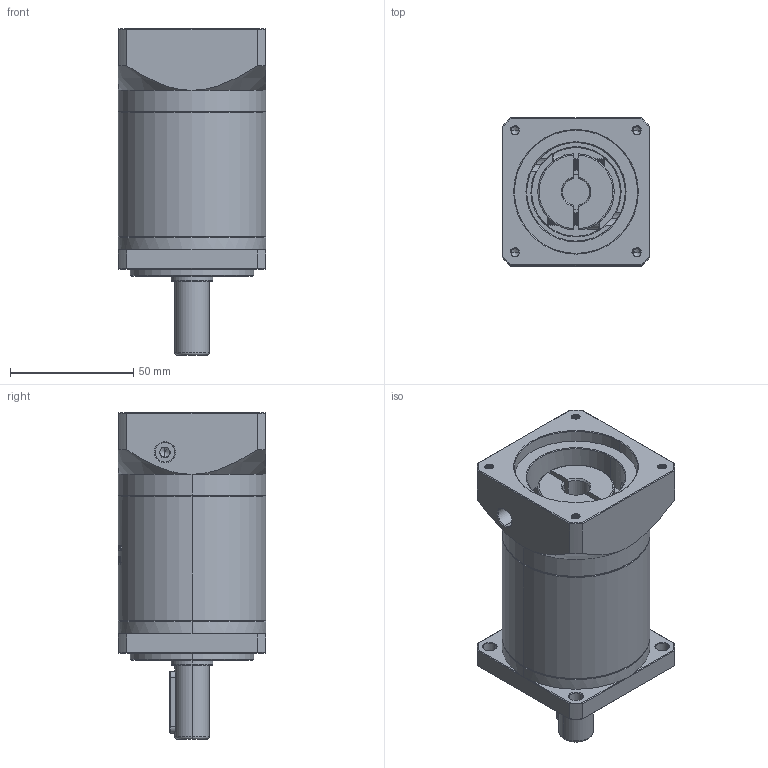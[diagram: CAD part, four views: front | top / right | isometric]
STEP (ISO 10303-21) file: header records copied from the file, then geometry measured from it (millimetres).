
FILE_DESCRIPTION (( 'STEP AP214' ), '1' );
FILE_NAME ('ZF60-D14-L2-11-50-70-M4.STEP', '2022-04-17T11:35:01', ( '' ), ( 'Microsoft' ), 'SwSTEP 2.0', 'SolidWorks 2016', '' );
FILE_SCHEMA (( 'AUTOMOTIVE_DESIGN' ));
Length unit declared in the file: millimetre
Products named in the file (1): ZF60-D14-L2-11-50-70-M4
Bounding box: 60 x 60 x 132.5 mm (x, y, z)
Volume: 271086.3 mm3; surface area: 47020.1 mm2
Topology: 6 solids, 6 shells, 1624 faces, 4386 edges, 2838 vertices
Faces by surface type: plane 744, cylinder 327, bspline 299, cone 234, torus 20
Entity records: 89102 total; most frequent: CARTESIAN_POINT 34117, ORIENTED_EDGE 8744, DIRECTION 6429, EDGE_CURVE 4372, VERTEX_POINT 2838, LINE 2215, VECTOR 2215, AXIS2_PLACEMENT_3D 2107
